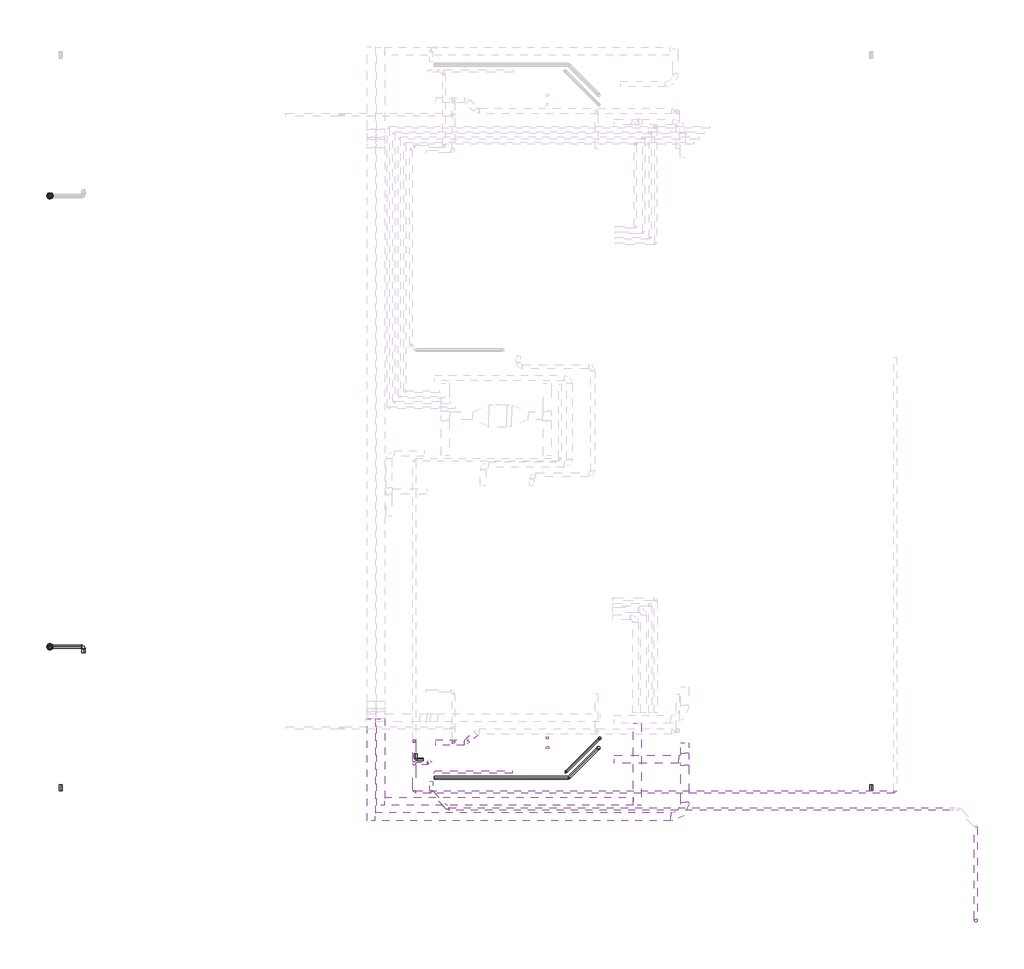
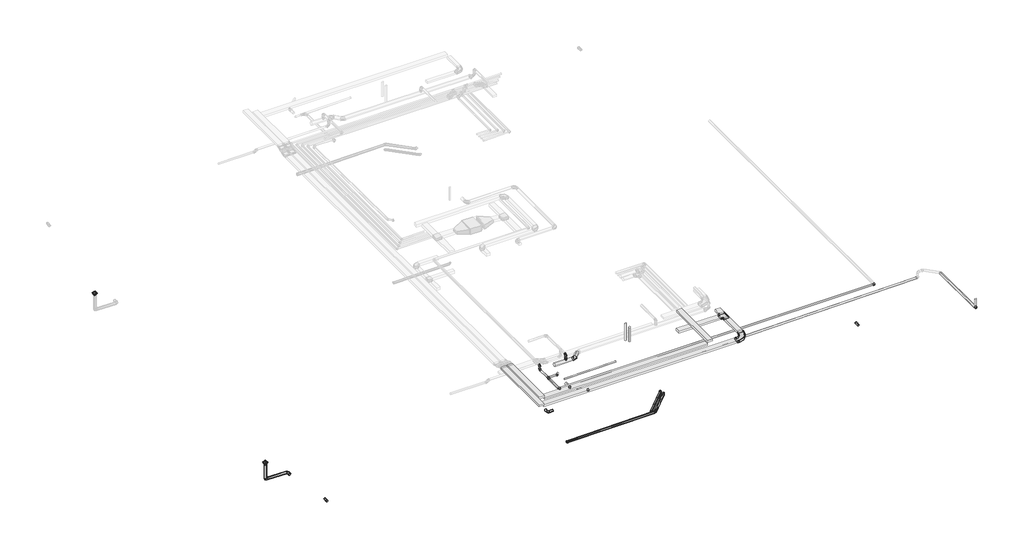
# One storey, part 1 of 5: 24 pipe segments, 17 pipe fittings, 8 cable carrier segments, 3 duct fittings, 3 duct segments, 2 cable carrier fittings, 2 flow terminals.
"""IFC4 building model written with IfcOpenShell, lengths in millimetres."""

from ifc_helpers import new_model, si_unit, point, frame, frame_2d, origin, place, context, project, spatial, polyline, circle_curve, trimmed, segment, composite_curve, outline, extrude, transform, mapped, element, save
from components import el_radio_300_mm_312ed4b1, m_codo_horizontal_de_canal_el_5b0e7b07, ext_2c048923, m_codo_redondo_ext_1_d_85067ab4, m_codo_redondo_ext_1_d_19f6bd6d, flow_terminal_39898e6f, flow_terminal_561f22d3, pipe_fitting_4aa6ec84, pipe_fitting_1b8f7a22, pipe_fitting_f4737d89, pipe_fitting_0b7fd5a4, pipe_fitting_aab77541, pipe_fitting_688cd524, pipe_fitting_d4e63a53, pipe_fitting_87aeffad, pipe_fitting_4a6b8cfe, pipe_fitting_2d09eb79

model = new_model("IFC4")

# Units and contexts
model_context = context("Model", 3, world=origin())
ifc_project = project(units=[si_unit("LENGTHUNIT", "METRE", prefix="MILLI")], contexts=[model_context])

# Site, building, storey
site = spatial("IfcSite", under=ifc_project)
building = spatial("IfcBuilding", under=site)
storey = spatial("IfcBuildingStorey", under=building, Name="Nivell 03 P03_PP", Elevation=18660.0)

# Cable carrier fittings
placement = place(None, origin())
el_radio_300_mm_shape = el_radio_300_mm_312ed4b1(model_context)
element("IfcCableCarrierFitting", 1, ObjectType="M_Te horizontal de canal : EL_Radio 300 mm", at=placement, inside=storey, context=model_context, shape_type="MappedRepresentation", body=[
    mapped(el_radio_300_mm_shape, transform((16614.6624278, -16993.7433657, 21824.0212739), x_axis=(0.0, -1.0, 0.0), y_axis=(1.0, 0.0, 0.0), z_axis=(0.0, 0.0, 1.0))),
])
m_codo_horizontal_de_canal_el_shape = m_codo_horizontal_de_canal_el_5b0e7b07(model_context)
element("IfcCableCarrierFitting", 2, ObjectType="M_Codo horizontal de canal : EL", at=placement, inside=storey, context=model_context, shape_type="MappedRepresentation", body=[
    mapped(m_codo_horizontal_de_canal_el_shape, transform((16614.6624278, -19116.2171768, 21824.0212739), x_axis=(1.0, 0.0, 0.0), y_axis=(0.0, 1.0, 0.0), z_axis=(0.0, 0.0, 1.0))),
])

# Cable carrier segments
element("IfcCableCarrierSegment", 3, ObjectType="EL", at=placement, inside=storey, context=model_context, shape_type="SweptSolid", body=[
    extrude(outline(polyline([(16464.6624278, -17219.7433657), (16764.6624278, -17219.7433657), (16764.6624278, -18591.2171768), (16464.6624278, -18591.2171768), (16464.6624278, -17219.7433657)])), frame((0.0, 0.0, 21774.0212739), z_axis=(0.0, 0.0, 1.0), x_axis=(1.0, 0.0, 0.0)), (0.0, 0.0, 1.0), 100.0),
])
element("IfcCableCarrierSegment", 4, ObjectType="EL", at=placement, inside=storey, context=model_context, shape_type="SweptSolid", body=[
    extrude(outline(polyline([(16089.6624278, -18966.2171768), (16089.6624278, -19266.2171768), (5158.2381883, -19266.2171768), (5158.2381883, -18966.2171768), (16089.6624278, -18966.2171768)])), frame((0.0, 0.0, 21774.0212739), z_axis=(0.0, 0.0, 1.0), x_axis=(1.0, 0.0, 0.0)), (0.0, 0.0, 1.0), 100.0),
])
element("IfcCableCarrierSegment", 5, ObjectType="EL", at=placement, inside=storey, context=model_context, shape_type="SweptSolid", body=[
    extrude(outline(polyline([(16464.6624278, -16393.7433657), (16764.6624278, -16393.7433657), (16764.6624278, -16767.7433657), (16464.6624278, -16767.7433657), (16464.6624278, -16393.7433657)])), frame((0.0, 0.0, 21774.0212739), z_axis=(0.0, 0.0, 1.0), x_axis=(1.0, 0.0, 0.0)), (0.0, 0.0, 1.0), 100.0),
])
element("IfcCableCarrierSegment", 6, ObjectType="EL", at=placement, inside=storey, context=model_context, shape_type="SweptSolid", body=[
    extrude(outline(polyline([(16388.6624278, -16843.7433657), (16388.6624278, -17143.7433657), (14011.0671065, -17143.7433657), (14011.0671065, -16843.7433657), (16388.6624278, -16843.7433657)])), frame((0.0, 0.0, 21774.0212739), z_axis=(0.0, 0.0, 1.0), x_axis=(1.0, 0.0, 0.0)), (0.0, 0.0, 1.0), 100.0),
])
element("IfcCableCarrierSegment", 7, ObjectType="EL", at=placement, inside=storey, context=model_context, shape_type="SweptSolid", body=[
    extrude(outline(polyline([(14707.0671065, -15671.1304394), (15007.0671065, -15671.1304394), (15007.0671065, -18700.3999814), (14707.0671065, -18700.3999814), (14707.0671065, -15671.1304394)])), frame((0.0, 0.0, 21910.0), z_axis=(0.0, 0.0, 1.0), x_axis=(1.0, 0.0, 0.0)), (0.0, 0.0, 1.0), 100.0),
])
element("IfcCableCarrierSegment", 8, ObjectType="EL", at=placement, inside=storey, context=model_context, shape_type="SweptSolid", body=[
    extrude(outline(polyline([(14707.0671065, -18400.3999814), (14707.0671065, -18700.3999814), (5507.0671065, -18700.3999814), (5507.0671065, -18400.3999814), (14707.0671065, -18400.3999814)])), frame((0.0, 0.0, 21741.5185208), z_axis=(0.0, 0.0, 1.0), x_axis=(1.0, 0.0, 0.0)), (0.0, 0.0, 1.0), 100.0),
])
element("IfcCableCarrierSegment", 9, ObjectType="EL", at=placement, inside=storey, context=model_context, shape_type="SweptSolid", body=[
    extrude(outline(polyline([(4858.2381883, -15500.01931), (5158.2381883, -15500.01931), (5158.2381883, -19266.2171768), (4858.2381883, -19266.2171768), (4858.2381883, -15500.01931)])), frame((0.0, 0.0, 21860.0), z_axis=(0.0, 0.0, 1.0), x_axis=(1.0, 0.0, 0.0)), (0.0, 0.0, 1.0), 100.0),
])
element("IfcCableCarrierSegment", 10, ObjectType="EL", at=placement, inside=storey, context=model_context, shape_type="SweptSolid", body=[
    extrude(outline(polyline([(5207.0671065, -15500.01931), (5507.0671065, -15500.01931), (5507.0671065, -18700.3999814), (5207.0671065, -18700.3999814), (5207.0671065, -15500.01931)])), frame((0.0, 0.0, 21860.0), z_axis=(0.0, 0.0, 1.0), x_axis=(1.0, 0.0, 0.0)), (0.0, 0.0, 1.0), 100.0),
])

# Duct fittings
ext_shape = ext_2c048923(model_context)
element("IfcDuctFitting", 11, ObjectType="M_Toma de derivación redonda : EXT", at=placement, inside=storey, context=model_context, shape_type="MappedRepresentation", body=[
    mapped(ext_shape, transform((8050.5896993, -16372.9719502, 21840.0), x_axis=(0.0, 0.0, 1.0), y_axis=(1.0, 0.0, 0.0), z_axis=(0.0, 1.0, 0.0))),
])
m_codo_redondo_ext_1_d_shape = m_codo_redondo_ext_1_d_85067ab4(model_context)
element("IfcDuctFitting", 12, ObjectType="M_Codo redondo : EXT_1 D", at=placement, inside=storey, context=model_context, shape_type="MappedRepresentation", body=[
    mapped(m_codo_redondo_ext_1_d_shape, transform((8050.5896993, -16372.9719502, 22110.0), x_axis=(0.0, -1.0, 0.0), y_axis=(0.0, 0.0, -1.0), z_axis=(1.0, 0.0, 0.0))),
])
m_codo_redondo_ext_1_d_2_shape = m_codo_redondo_ext_1_d_19f6bd6d(model_context)
element("IfcDuctFitting", 13, ObjectType="M_Codo redondo : EXT_1 D", at=placement, inside=storey, context=model_context, shape_type="MappedRepresentation", body=[
    mapped(m_codo_redondo_ext_1_d_2_shape, transform((8530.5878282, -16372.9738213, 21740.0), x_axis=(-0.7071067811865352, -0.7071067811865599, 0.0), y_axis=(0.7071067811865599, -0.7071067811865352, 0.0), z_axis=(0.0, 0.0, 1.0))),
])

# Duct segments
element("IfcDuctSegment", 14, ObjectType="EXT_Acer Galvanitzat - Rígid", at=placement, inside=storey, context=model_context, shape_type="SweptSolid", body=[
    extrude(outline(composite_curve([segment(trimmed(circle_curve(frame_2d((8050.5896993, -16372.9719502)), 50.0), [point((8000.5896993, -16372.9719502))], [point((8050.5896993, -16322.9719502))], False, "CARTESIAN"), True, "CONTINUOUS"), segment(trimmed(circle_curve(frame_2d((8050.5896993, -16372.9719502)), 50.0), [point((8050.5896993, -16322.9719502))], [point((8100.5896993, -16372.9719502))], False, "CARTESIAN"), True, "CONTINUOUS"), segment(trimmed(circle_curve(frame_2d((8050.5896993, -16372.9719502)), 50.0), [point((8100.5896993, -16372.9719502))], [point((8050.5896993, -16422.9719502))], False, "CARTESIAN"), True, "CONTINUOUS"), segment(trimmed(circle_curve(frame_2d((8050.5896993, -16372.9719502)), 50.0), [point((8050.5896993, -16422.9719502))], [point((8000.5896993, -16372.9719502))], False, "CARTESIAN"), True, "CONTINUOUS")], self_intersect=False)), frame((0.0, 0.0, 21941.6), z_axis=(0.0, 0.0, 1.0), x_axis=(1.0, 0.0, 0.0)), (0.0, 0.0, 1.0), 68.4),
])
element("IfcDuctSegment", 15, ObjectType="EXT_Acer Galvanitzat - Rígid", at=placement, inside=storey, context=model_context, shape_type="SweptSolid", body=[
    extrude(outline(composite_curve([segment(trimmed(circle_curve(frame_2d((0.0, -100.0)), 100.0), [point((-100.0, -100.0))], [point((0.0, 0.0))], False, "CARTESIAN"), True, "CONTINUOUS"), segment(trimmed(circle_curve(frame_2d((0.0, -100.0)), 100.0), [point((0.0, 0.0))], [point((100.0, -100.0))], False, "CARTESIAN"), True, "CONTINUOUS"), segment(trimmed(circle_curve(frame_2d((0.0, -100.0)), 100.0), [point((100.0, -100.0))], [point((0.0, -200.0))], False, "CARTESIAN"), True, "CONTINUOUS"), segment(trimmed(circle_curve(frame_2d((0.0, -100.0)), 100.0), [point((0.0, -200.0))], [point((-100.0, -100.0))], False, "CARTESIAN"), True, "CONTINUOUS")], self_intersect=False)), frame((8589.166472, -16314.3951775, 21640.0), z_axis=(0.7071067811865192, 0.707106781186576, 0.0), x_axis=(0.707106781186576, -0.7071067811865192, 0.0)), (0.0, 0.0, 1.0), 400.0026461),
])
element("IfcDuctSegment", 16, ObjectType="EXT_Acer Galvanitzat - Rígid", at=placement, inside=storey, context=model_context, shape_type="SweptSolid", body=[
    extrude(outline(composite_curve([segment(trimmed(circle_curve(frame_2d((-16372.9738213, 21740.0)), 100.0), [point((-16272.9738213, 21740.0))], [point((-16372.9738213, 21640.0))], False, "CARTESIAN"), True, "CONTINUOUS"), segment(trimmed(circle_curve(frame_2d((-16372.9738213, 21740.0)), 100.0), [point((-16372.9738213, 21640.0))], [point((-16472.9738213, 21740.0))], False, "CARTESIAN"), True, "CONTINUOUS"), segment(trimmed(circle_curve(frame_2d((-16372.9738213, 21740.0)), 100.0), [point((-16472.9738213, 21740.0))], [point((-16372.9738213, 21840.0))], False, "CARTESIAN"), True, "CONTINUOUS"), segment(trimmed(circle_curve(frame_2d((-16372.9738213, 21740.0)), 100.0), [point((-16372.9738213, 21840.0))], [point((-16272.9738213, 21740.0))], False, "CARTESIAN"), True, "CONTINUOUS")], self_intersect=False)), frame((7390.5878282, 0.0, 0.0), z_axis=(1.0, 0.0, 0.0), x_axis=(0.0, 1.0, 0.0)), (0.0, 0.0, 1.0), 1057.1572875),
])

# Flow terminals
flow_terminal_shape = flow_terminal_39898e6f(model_context)
element("IfcFlowTerminal", 17, ObjectType="ARC_PF_desaigua coberta : Diámetro salida 70mm", at=placement, inside=storey, context=model_context, shape_type="MappedRepresentation", body=[
    mapped(flow_terminal_shape, transform((-6884.6265174, 3853.7508926, 18658.0), x_axis=(1.0, 0.0, 0.0), y_axis=(0.0, 1.0, 0.0), z_axis=(0.0, 0.0, 1.0))),
])
flow_terminal_2_shape = flow_terminal_561f22d3(model_context)
element("IfcFlowTerminal", 18, ObjectType="ARC_PF_desaigua coberta : Diámetro salida 70mm", at=placement, inside=storey, context=model_context, shape_type="MappedRepresentation", body=[
    mapped(flow_terminal_2_shape, transform((-6884.6265174, -12834.5028727, 18658.0), x_axis=(1.0, 0.0, 0.0), y_axis=(0.0, 1.0, 0.0), z_axis=(0.0, 0.0, 1.0))),
])

# Pipe fittings
pipe_fitting_shape = pipe_fitting_4aa6ec84(model_context)
element("IfcPipeFitting", 19, ObjectType="M_Transición - Genérica : Estándar", at=placement, inside=storey, context=model_context, shape_type="MappedRepresentation", body=[
    mapped(pipe_fitting_shape, transform((-6884.6265174, -12834.5028727, 18658.0), x_axis=(0.0, 0.0, -1.0), y_axis=(1.0, 0.0, 0.0), z_axis=(0.0, -1.0, 0.0))),
])
pipe_fitting_2_shape = pipe_fitting_1b8f7a22(model_context)
element("IfcPipeFitting", 20, ObjectType="M_Codo - Genérico : Estándar", at=placement, inside=storey, context=model_context, shape_type="MappedRepresentation", body=[
    mapped(pipe_fitting_2_shape, transform((-6884.6265174, -12834.5028727, 17764.0), x_axis=(0.0, 0.0, -1.0), y_axis=(-1.0, 0.0, 0.0), z_axis=(0.0, 1.0, 0.0))),
])
pipe_fitting_3_shape = pipe_fitting_f4737d89(model_context)
element("IfcPipeFitting", 21, ObjectType="M_Codo - Genérico : Estándar", at=placement, inside=storey, context=model_context, shape_type="MappedRepresentation", body=[
    mapped(pipe_fitting_3_shape, transform((-5639.5711916, -12834.5028727, 17751.5494467), x_axis=(0.9999500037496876, 0.0, -0.009999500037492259), y_axis=(9.998500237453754e-05, 0.9999500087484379, 0.00999850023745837), z_axis=(0.00999900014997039, -0.009999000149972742, 0.9999000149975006))),
])
pipe_fitting_4_shape = pipe_fitting_0b7fd5a4(model_context)
element("IfcPipeFitting", 22, ObjectType="M_Codo - Genérico : Estándar", at=placement, inside=storey, context=model_context, shape_type="MappedRepresentation", body=[
    mapped(pipe_fitting_4_shape, transform((7870.0068596, -18840.3956727, 21576.0671248), x_axis=(0.7070714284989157, -0.7070714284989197, 0.009999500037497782), y_axis=(0.7070714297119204, 0.7071300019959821, 0.004141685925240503), z_axis=(-0.009999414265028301, 0.004141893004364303, 0.9999414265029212))),
])
element("IfcPipeFitting", 23, ObjectType="M_Codo - Genérico : Estándar", at=placement, inside=storey, context=model_context, shape_type="MappedRepresentation", body=[
    mapped(pipe_fitting_4_shape, transform((7222.8096734, -18193.1973994, 21566.9143667), x_axis=(0.0, -0.9999500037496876, 0.009999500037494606), y_axis=(0.9999914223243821, 4.141685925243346e-05, 0.004141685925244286), z_axis=(-0.004141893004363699, 0.009999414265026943, 0.9999414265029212))),
])
element("IfcPipeFitting", 24, ObjectType="M_Codo - Genérico : Estándar", at=placement, inside=storey, context=model_context, shape_type="MappedRepresentation", body=[
    mapped(pipe_fitting_4_shape, transform((12318.5757792, -17686.9795368, 17994.2175715), x_axis=(0.9999500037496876, 0.0, 0.009999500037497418), y_axis=(-4.141685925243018e-05, 0.9999914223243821, 0.004141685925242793), z_axis=(-0.009999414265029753, -0.004141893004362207, 0.9999414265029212))),
])
pipe_fitting_5_shape = pipe_fitting_aab77541(model_context)
element("IfcPipeFitting", 25, ObjectType="M_Codo - Genérico : Estándar", at=placement, inside=storey, context=model_context, shape_type="MappedRepresentation", body=[
    mapped(pipe_fitting_5_shape, transform((27389.4059114, -22976.7660651, 22160.0), x_axis=(0.0, 0.0, -1.0), y_axis=(0.0, 1.0, 0.0), z_axis=(1.0, 0.0, 0.0))),
])
element("IfcPipeFitting", 26, ObjectType="M_Codo - Genérico : Estándar", at=placement, inside=storey, context=model_context, shape_type="MappedRepresentation", body=[
    mapped(pipe_fitting_5_shape, transform((13434.5619983, -16570.9933177, 18010.0), x_axis=(0.7070714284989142, 0.7070714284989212, 0.00999950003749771), y_axis=(-0.007070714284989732, -0.007070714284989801, 0.9999500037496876), z_axis=(0.707106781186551, -0.707106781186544, 0.0))),
])
pipe_fitting_6_shape = pipe_fitting_688cd524(model_context)
element("IfcPipeFitting", 27, ObjectType="M_Codo - Genérico : Estándar", at=placement, inside=storey, context=model_context, shape_type="MappedRepresentation", body=[
    mapped(pipe_fitting_6_shape, transform((13475.0176167, -16214.1987939, 17901.1228556), x_axis=(0.7070714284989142, 0.7070714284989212, 0.00999950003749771), y_axis=(-0.007070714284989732, -0.007070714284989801, 0.9999500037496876), z_axis=(0.707106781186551, -0.707106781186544, 0.0))),
])
pipe_fitting_7_shape = pipe_fitting_d4e63a53(model_context)
element("IfcPipeFitting", 28, ObjectType="M_Codo - Genérico : Estándar", at=placement, inside=storey, context=model_context, shape_type="MappedRepresentation", body=[
    mapped(pipe_fitting_7_shape, transform((12218.1428427, -17471.0727446, 17883.3479679), x_axis=(0.9999500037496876, 0.0, 0.009999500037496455), y_axis=(-4.141528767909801e-05, 0.9999914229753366, 0.0041415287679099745), z_axis=(-0.00999941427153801, -0.004141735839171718, 0.9999414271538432))),
])
pipe_fitting_8_shape = pipe_fitting_87aeffad(model_context)
element("IfcPipeFitting", 29, ObjectType="M_Codo - Genérico : Estándar", at=placement, inside=storey, context=model_context, shape_type="MappedRepresentation", body=[
    mapped(pipe_fitting_8_shape, transform((6656.4795907, -17006.4845942, 19560.0), x_axis=(0.0, -1.0, 0.0), y_axis=(1.0, 0.0, 0.0), z_axis=(0.0, 0.0, 1.0))),
])
element("IfcPipeFitting", 30, ObjectType="M_Codo - Genérico : Estándar", at=placement, inside=storey, context=model_context, shape_type="MappedRepresentation", body=[
    mapped(pipe_fitting_8_shape, transform((6603.8941113, -18211.6106458, 21709.2), x_axis=(0.0, -1.0, 0.0), y_axis=(1.0, 0.0, 0.0), z_axis=(0.0, 0.0, 1.0))),
])
element("IfcPipeFitting", 31, ObjectType="M_Codo - Genérico : Estándar", at=placement, inside=storey, context=model_context, shape_type="MappedRepresentation", body=[
    mapped(pipe_fitting_8_shape, transform((24403.8941113, -18211.6106458, 21709.2), x_axis=(1.0, 0.0, 0.0), y_axis=(0.0, 1.0, 0.0), z_axis=(0.0, 0.0, 1.0))),
])
element("IfcPipeFitting", 32, ObjectType="M_Codo - Genérico : Estándar", at=placement, inside=storey, context=model_context, shape_type="MappedRepresentation", body=[
    mapped(pipe_fitting_8_shape, transform((6603.8941113, -16317.1543958, 21709.2), x_axis=(0.0, 1.0, 0.0), y_axis=(0.0, 0.0, 1.0), z_axis=(1.0, 0.0, 0.0))),
])
element("IfcPipeFitting", 33, ObjectType="M_Codo - Genérico : Estándar", at=placement, inside=storey, context=model_context, shape_type="MappedRepresentation", body=[
    mapped(pipe_fitting_8_shape, transform((6603.8941113, -16317.1543958, 21960.8), x_axis=(0.0, -1.0, 0.0), y_axis=(0.0, 0.0, -1.0), z_axis=(1.0, 0.0, 0.0))),
])
pipe_fitting_9_shape = pipe_fitting_4a6b8cfe(model_context)
element("IfcPipeFitting", 34, ObjectType="M_Codo - Genérico : Estándar", at=placement, inside=storey, context=model_context, shape_type="MappedRepresentation", body=[
    mapped(pipe_fitting_9_shape, transform((7103.8941113, -17152.8731458, 21709.2), x_axis=(1.0, 0.0, 0.0), y_axis=(0.0, 1.0, 0.0), z_axis=(0.0, 0.0, 1.0))),
])
pipe_fitting_10_shape = pipe_fitting_2d09eb79(model_context)
element("IfcPipeFitting", 35, ObjectType="M_Te - Genérica : Estándar", at=placement, inside=storey, context=model_context, shape_type="MappedRepresentation", body=[
    mapped(pipe_fitting_10_shape, transform((6603.8941113, -17152.8731458, 21709.2), x_axis=(0.0, -1.0, 0.0), y_axis=(-1.0, 0.0, 0.0), z_axis=(0.0, 0.0, -1.0))),
])

# Pipe segments
element("IfcPipeSegment", 36, ObjectType="PVC_Baixant", at=placement, inside=storey, context=model_context, shape_type="SweptSolid", body=[
    extrude(outline(composite_curve([segment(trimmed(circle_curve(frame_2d((0.0, -62.5)), 62.5), [point((0.0, -125.0))], [point((-62.5, -62.5))], False, "CARTESIAN"), True, "CONTINUOUS"), segment(trimmed(circle_curve(frame_2d((0.0, -62.5)), 62.5), [point((-62.5, -62.5))], [point((0.0, 0.0))], False, "CARTESIAN"), True, "CONTINUOUS"), segment(trimmed(circle_curve(frame_2d((0.0, -62.5)), 62.5), [point((0.0, 0.0))], [point((62.5, -62.5))], False, "CARTESIAN"), True, "CONTINUOUS"), segment(trimmed(circle_curve(frame_2d((0.0, -62.5)), 62.5), [point((62.5, -62.5))], [point((0.0, -125.0))], False, "CARTESIAN"), True, "CONTINUOUS")], self_intersect=False)), frame((-5710.9979776, -12772.0028727, 17752.2637146), z_axis=(-0.9999500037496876, 0.0, 0.00999950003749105), x_axis=(0.00999950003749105, 0.0, 0.9999500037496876)), (0.0, 0.0, 1.0), 1102.9605229),
])
element("IfcPipeSegment", 37, ObjectType="PVC_Baixant", at=placement, inside=storey, context=model_context, shape_type="SweptSolid", body=[
    extrude(outline(composite_curve([segment(trimmed(circle_curve(frame_2d((-6884.6265174, -12834.5028727)), 62.5), [point((-6822.1265174, -12834.5028727))], [point((-6884.6265174, -12897.0028727))], False, "CARTESIAN"), True, "CONTINUOUS"), segment(trimmed(circle_curve(frame_2d((-6884.6265174, -12834.5028727)), 62.5), [point((-6884.6265174, -12897.0028727))], [point((-6947.1265174, -12834.5028727))], False, "CARTESIAN"), True, "CONTINUOUS"), segment(trimmed(circle_curve(frame_2d((-6884.6265174, -12834.5028727)), 62.5), [point((-6947.1265174, -12834.5028727))], [point((-6884.6265174, -12772.0028727))], False, "CARTESIAN"), True, "CONTINUOUS"), segment(trimmed(circle_curve(frame_2d((-6884.6265174, -12834.5028727)), 62.5), [point((-6884.6265174, -12772.0028727))], [point((-6822.1265174, -12834.5028727))], False, "CARTESIAN"), True, "CONTINUOUS")], self_intersect=False)), frame((0.0, 0.0, 17834.7266968), z_axis=(0.0, 0.0, 1.0), x_axis=(1.0, 0.0, 0.0)), (0.0, 0.0, 1.0), 790.7295532),
])
element("IfcPipeSegment", 38, ObjectType="PVC_Baixant", at=placement, inside=storey, context=model_context, shape_type="SweptSolid", body=[
    extrude(outline(composite_curve([segment(trimmed(circle_curve(frame_2d((0.0, -62.5)), 62.5), [point((-62.5, -62.5))], [point((0.0, 0.0))], False, "CARTESIAN"), True, "CONTINUOUS"), segment(trimmed(circle_curve(frame_2d((0.0, -62.5)), 62.5), [point((0.0, 0.0))], [point((62.5, -62.5))], False, "CARTESIAN"), True, "CONTINUOUS"), segment(trimmed(circle_curve(frame_2d((0.0, -62.5)), 62.5), [point((62.5, -62.5))], [point((0.0, -125.0))], False, "CARTESIAN"), True, "CONTINUOUS"), segment(trimmed(circle_curve(frame_2d((0.0, -62.5)), 62.5), [point((0.0, -125.0))], [point((-62.5, -62.5))], False, "CARTESIAN"), True, "CONTINUOUS")], self_intersect=False)), frame((-5639.5711916, -13049.8787037, 17686.8925635), z_axis=(0.0, 0.9999500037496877, 0.009999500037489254), x_axis=(1.0, 0.0, 0.0)), (0.0, 0.0, 1.0), 144.5812423),
])
element("IfcPipeSegment", 39, ObjectType="PVC_Baixant", at=placement, inside=storey, context=model_context, shape_type="SweptSolid", body=[
    extrude(outline(composite_curve([segment(trimmed(circle_curve(frame_2d((11534.5619983, -16570.9933177)), 55.0), [point((11479.5619983, -16570.9933177))], [point((11534.5619983, -16515.9933177))], False, "CARTESIAN"), True, "CONTINUOUS"), segment(trimmed(circle_curve(frame_2d((11534.5619983, -16570.9933177)), 55.0), [point((11534.5619983, -16515.9933177))], [point((11589.5619983, -16570.9933177))], False, "CARTESIAN"), True, "CONTINUOUS"), segment(trimmed(circle_curve(frame_2d((11534.5619983, -16570.9933177)), 55.0), [point((11589.5619983, -16570.9933177))], [point((11534.5619983, -16625.9933177))], False, "CARTESIAN"), True, "CONTINUOUS"), segment(trimmed(circle_curve(frame_2d((11534.5619983, -16570.9933177)), 55.0), [point((11534.5619983, -16625.9933177))], [point((11479.5619983, -16570.9933177))], False, "CARTESIAN"), True, "CONTINUOUS")], self_intersect=False)), frame((0.0, 0.0, 21822.3112718), z_axis=(0.0, 0.0, 1.0), x_axis=(1.0, 0.0, 0.0)), (0.0, 0.0, 1.0), 837.6887282),
])
element("IfcPipeSegment", 40, ObjectType="PVC_Baixant", at=placement, inside=storey, context=model_context, shape_type="SweptSolid", body=[
    extrude(outline(composite_curve([segment(trimmed(circle_curve(frame_2d((0.0, 45.0)), 45.0), [point((-45.0, 45.0))], [point((0.0, 90.0))], False, "CARTESIAN"), True, "CONTINUOUS"), segment(trimmed(circle_curve(frame_2d((0.0, 45.0)), 45.0), [point((0.0, 90.0))], [point((45.0, 45.0))], False, "CARTESIAN"), True, "CONTINUOUS"), segment(trimmed(circle_curve(frame_2d((0.0, 45.0)), 45.0), [point((45.0, 45.0))], [point((0.0, 0.0))], False, "CARTESIAN"), True, "CONTINUOUS"), segment(trimmed(circle_curve(frame_2d((0.0, 45.0)), 45.0), [point((0.0, 0.0))], [point((-45.0, 45.0))], False, "CARTESIAN"), True, "CONTINUOUS")], self_intersect=False)), frame((11520.8342792, -16253.2069022, 21670.9866789), z_axis=(2.535683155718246e-05, -1.9776222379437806e-06, 0.9999999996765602), x_axis=(0.9999999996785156, 5.01430008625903e-11, -2.535683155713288e-05)), (0.0, 0.0, 1.0), 989.013222),
])
element("IfcPipeSegment", 41, ObjectType="PVC_Baixant", at=placement, inside=storey, context=model_context, shape_type="SweptSolid", body=[
    extrude(outline(composite_curve([segment(trimmed(circle_curve(frame_2d((0.0, -45.0)), 45.0), [point((0.0, 0.0))], [point((44.9999999, -45.0))], False, "CARTESIAN"), True, "CONTINUOUS"), segment(trimmed(circle_curve(frame_2d((0.0, -45.0)), 45.0), [point((44.9999999, -45.0))], [point((0.0, -90.0))], False, "CARTESIAN"), True, "CONTINUOUS"), segment(trimmed(circle_curve(frame_2d((0.0, -45.0)), 45.0), [point((0.0, -90.0))], [point((-45.0, -45.0))], False, "CARTESIAN"), True, "CONTINUOUS"), segment(trimmed(circle_curve(frame_2d((0.0, -45.0)), 45.0), [point((-45.0, -45.0))], [point((0.0, 0.0))], False, "CARTESIAN"), True, "CONTINUOUS")], self_intersect=False)), frame((7341.7462723, -17425.4705374, 21572.1011787), z_axis=(0.9999500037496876, 0.0, 0.009999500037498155), x_axis=(0.009999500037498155, 0.0, -0.9999500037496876)), (0.0, 0.0, 1.0), 2895.2718674),
])
element("IfcPipeSegment", 42, ObjectType="PVC_Baixant", at=placement, inside=storey, context=model_context, shape_type="SweptSolid", body=[
    extrude(outline(composite_curve([segment(trimmed(circle_curve(frame_2d((27389.4059114, -22976.7660651)), 55.0), [point((27334.4059114, -22976.7660651))], [point((27389.4059114, -22921.7660651))], False, "CARTESIAN"), True, "CONTINUOUS"), segment(trimmed(circle_curve(frame_2d((27389.4059114, -22976.7660651)), 55.0), [point((27389.4059114, -22921.7660651))], [point((27444.4059114, -22976.7660651))], False, "CARTESIAN"), True, "CONTINUOUS"), segment(trimmed(circle_curve(frame_2d((27389.4059114, -22976.7660651)), 55.0), [point((27444.4059114, -22976.7660651))], [point((27389.4059114, -23031.7660651))], False, "CARTESIAN"), True, "CONTINUOUS"), segment(trimmed(circle_curve(frame_2d((27389.4059114, -22976.7660651)), 55.0), [point((27389.4059114, -23031.7660651))], [point((27334.4059114, -22976.7660651))], False, "CARTESIAN"), True, "CONTINUOUS")], self_intersect=False)), frame((0.0, 0.0, 22222.3112718), z_axis=(0.0, 0.0, 1.0), x_axis=(1.0, 0.0, 0.0)), (0.0, 0.0, 1.0), 437.6887282),
])
element("IfcPipeSegment", 43, ObjectType="PVC_Baixant", at=placement, inside=storey, context=model_context, shape_type="SweptSolid", body=[
    extrude(outline(composite_curve([segment(trimmed(circle_curve(frame_2d((0.0, -55.0)), 55.0), [point((55.0, -55.0))], [point((0.0, -110.0))], False, "CARTESIAN"), True, "CONTINUOUS"), segment(trimmed(circle_curve(frame_2d((0.0, -55.0)), 55.0), [point((0.0, -110.0))], [point((-55.0, -55.0))], False, "CARTESIAN"), True, "CONTINUOUS"), segment(trimmed(circle_curve(frame_2d((0.0, -55.0)), 55.0), [point((-55.0, -55.0))], [point((0.0, 0.0))], False, "CARTESIAN"), True, "CONTINUOUS"), segment(trimmed(circle_curve(frame_2d((0.0, -55.0)), 55.0), [point((0.0, 0.0))], [point((55.0, -55.0))], False, "CARTESIAN"), True, "CONTINUOUS")], self_intersect=False)), frame((27389.4059114, -19499.9749558, 22180.2348388), z_axis=(0.0, -0.9999500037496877, 0.009999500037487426), x_axis=(1.0, 0.0, 0.0)), (0.0, 0.0, 1.0), 3414.1036727),
])
element("IfcPipeSegment", 44, ObjectType="PVC_Baixant", at=placement, inside=storey, context=model_context, shape_type="SweptSolid", body=[
    extrude(outline(composite_curve([segment(trimmed(circle_curve(frame_2d((0.0, -55.0)), 55.0), [point((0.0, 0.0))], [point((55.0, -55.0))], False, "CARTESIAN"), True, "CONTINUOUS"), segment(trimmed(circle_curve(frame_2d((0.0, -55.0)), 55.0), [point((55.0, -55.0))], [point((0.0, -110.0))], False, "CARTESIAN"), True, "CONTINUOUS"), segment(trimmed(circle_curve(frame_2d((0.0, -55.0)), 55.0), [point((0.0, -110.0))], [point((-55.0, -55.0))], False, "CARTESIAN"), True, "CONTINUOUS"), segment(trimmed(circle_curve(frame_2d((0.0, -55.0)), 55.0), [point((-55.0, -55.0))], [point((0.0, 0.0))], False, "CARTESIAN"), True, "CONTINUOUS")], self_intersect=False)), frame((7896.0735954, -18785.3956727, 21576.3277921), z_axis=(0.9999500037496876, 0.0, 0.009999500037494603), x_axis=(0.009999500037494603, 0.0, -0.9999500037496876)), (0.0, 0.0, 1.0), 18530.0950724),
])
element("IfcPipeSegment", 45, ObjectType="PVC_Baixant", at=placement, inside=storey, context=model_context, shape_type="SweptSolid", body=[
    extrude(outline(composite_curve([segment(trimmed(circle_curve(frame_2d((0.0, -55.0)), 55.0), [point((54.9972505, -54.4500559))], [point((0.549944, -109.9972506))], False, "CARTESIAN"), True, "CONTINUOUS"), segment(trimmed(circle_curve(frame_2d((0.0, -55.0)), 55.0), [point((0.549944, -109.9972506))], [point((-54.9972505, -55.549944))], False, "CARTESIAN"), True, "CONTINUOUS"), segment(trimmed(circle_curve(frame_2d((0.0, -55.0)), 55.0), [point((-54.9972505, -55.549944))], [point((-0.5499441, -0.0027495))], False, "CARTESIAN"), True, "CONTINUOUS"), segment(trimmed(circle_curve(frame_2d((0.0, -55.0)), 55.0), [point((-0.5499441, -0.0027495))], [point((54.9972505, -54.4500559))], False, "CARTESIAN"), True, "CONTINUOUS")], self_intersect=False)), frame((7241.2416391, -18210.851626, 21622.1695349), z_axis=(0.7070707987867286, -0.707072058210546, 0.009999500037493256), x_axis=(0.7071427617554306, 0.707000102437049, -0.009998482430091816)), (0.0, 0.0, 1.0), 863.1854914),
])
element("IfcPipeSegment", 46, ObjectType="PVC_Baixant", at=placement, inside=storey, context=model_context, shape_type="SweptSolid", body=[
    extrude(outline(composite_curve([segment(trimmed(circle_curve(frame_2d((0.0, -55.0000001)), 55.0), [point((55.0, -55.0000001))], [point((0.0, -110.0000001))], False, "CARTESIAN"), True, "CONTINUOUS"), segment(trimmed(circle_curve(frame_2d((0.0, -55.0000001)), 55.0), [point((0.0, -110.0000001))], [point((-55.0, -55.0000001))], False, "CARTESIAN"), True, "CONTINUOUS"), segment(trimmed(circle_curve(frame_2d((0.0, -55.0000001)), 55.0), [point((-55.0, -55.0000001))], [point((0.0, 0.0))], False, "CARTESIAN"), True, "CONTINUOUS"), segment(trimmed(circle_curve(frame_2d((0.0, -55.0000001)), 55.0), [point((0.0, 0.0))], [point((55.0, -55.0000001))], False, "CARTESIAN"), True, "CONTINUOUS")], self_intersect=False)), frame((7222.8096734, -17804.808102, 21618.0332237), z_axis=(0.0, -0.999950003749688, 0.009999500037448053), x_axis=(1.0, 0.0, 0.0)), (0.0, 0.0, 1.0), 361.7906773),
])
element("IfcPipeSegment", 47, ObjectType="PVC_Baixant", at=placement, inside=storey, context=model_context, shape_type="SweptSolid", body=[
    extrude(outline(composite_curve([segment(trimmed(circle_curve(frame_2d((0.0, -55.0)), 55.0), [point((-54.9972505, -54.450055))], [point((0.549945, -0.0027495))], False, "CARTESIAN"), True, "CONTINUOUS"), segment(trimmed(circle_curve(frame_2d((0.0, -55.0)), 55.0), [point((0.549945, -0.0027495))], [point((54.9972505, -55.549945))], False, "CARTESIAN"), True, "CONTINUOUS"), segment(trimmed(circle_curve(frame_2d((0.0, -55.0)), 55.0), [point((54.9972505, -55.549945))], [point((-0.549945, -109.9972505))], False, "CARTESIAN"), True, "CONTINUOUS"), segment(trimmed(circle_curve(frame_2d((0.0, -55.0)), 55.0), [point((-0.549945, -109.9972505))], [point((-54.9972505, -54.450055))], False, "CARTESIAN"), True, "CONTINUOUS")], self_intersect=False)), frame((12337.0077448, -17667.7698315, 17939.4837381), z_axis=(0.7070714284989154, 0.7070714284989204, 0.009999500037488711), x_axis=(0.7071421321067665, -0.7070007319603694, -0.009998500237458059)), (0.0, 0.0, 1.0), 1489.9424458),
])
element("IfcPipeSegment", 48, ObjectType="PVC_Baixant", at=placement, inside=storey, context=model_context, shape_type="SweptSolid", body=[
    extrude(outline(composite_curve([segment(trimmed(circle_curve(frame_2d((0.0, -55.0)), 55.0), [point((0.0, 0.0))], [point((55.0, -55.0))], False, "CARTESIAN"), True, "CONTINUOUS"), segment(trimmed(circle_curve(frame_2d((0.0, -55.0)), 55.0), [point((55.0, -55.0))], [point((0.0, -110.0))], False, "CARTESIAN"), True, "CONTINUOUS"), segment(trimmed(circle_curve(frame_2d((0.0, -55.0)), 55.0), [point((0.0, -110.0))], [point((-55.0, -55.0))], False, "CARTESIAN"), True, "CONTINUOUS"), segment(trimmed(circle_curve(frame_2d((0.0, -55.0)), 55.0), [point((-55.0, -55.0))], [point((0.0, 0.0))], False, "CARTESIAN"), True, "CONTINUOUS")], self_intersect=False)), frame((7340.5229136, -17631.9795368, 17944.4370429), z_axis=(0.9999500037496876, 0.0, 0.009999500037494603), x_axis=(0.009999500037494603, 0.0, -0.9999500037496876)), (0.0, 0.0, 1.0), 4952.2337229),
])
element("IfcPipeSegment", 49, ObjectType="PVC_Baixant", at=placement, inside=storey, context=model_context, shape_type="SweptSolid", body=[
    extrude(outline(composite_curve([segment(trimmed(circle_curve(frame_2d((0.0, -45.0)), 45.0), [point((-44.9977503, -44.550045))], [point((0.4499551, -0.0022497))], False, "CARTESIAN"), True, "CONTINUOUS"), segment(trimmed(circle_curve(frame_2d((0.0, -45.0)), 45.0), [point((0.4499551, -0.0022497))], [point((44.9977505, -45.449955))], False, "CARTESIAN"), True, "CONTINUOUS"), segment(trimmed(circle_curve(frame_2d((0.0, -45.0)), 45.0), [point((44.9977505, -45.449955))], [point((-0.4499549, -89.9977505))], False, "CARTESIAN"), True, "CONTINUOUS"), segment(trimmed(circle_curve(frame_2d((0.0, -45.0)), 45.0), [point((-0.4499549, -89.9977505))], [point((-44.9977503, -44.550045))], False, "CARTESIAN"), True, "CONTINUOUS")], self_intersect=False)), frame((12233.4849498, -17455.0951282, 17838.5694315), z_axis=(0.7070714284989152, 0.7070714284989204, 0.009999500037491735), x_axis=(0.7071421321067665, -0.7070007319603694, -0.009998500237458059)), (0.0, 0.0, 1.0), 1704.0138787),
])
element("IfcPipeSegment", 50, ObjectType="AN_CI", at=placement, inside=storey, context=model_context, shape_type="SweptSolid", body=[
    extrude(outline(composite_curve([segment(trimmed(circle_curve(frame_2d((-17006.4845942, 19560.0)), 50.8), [point((-16955.6845942, 19560.0))], [point((-17006.4845942, 19509.2))], False, "CARTESIAN"), True, "CONTINUOUS"), segment(trimmed(circle_curve(frame_2d((-17006.4845942, 19560.0)), 50.8), [point((-17006.4845942, 19509.2))], [point((-17057.2845942, 19560.0))], False, "CARTESIAN"), True, "CONTINUOUS"), segment(trimmed(circle_curve(frame_2d((-17006.4845942, 19560.0)), 50.8), [point((-17057.2845942, 19560.0))], [point((-17006.4845942, 19610.8))], False, "CARTESIAN"), True, "CONTINUOUS"), segment(trimmed(circle_curve(frame_2d((-17006.4845942, 19560.0)), 50.8), [point((-17006.4845942, 19610.8))], [point((-16955.6845942, 19560.0))], False, "CARTESIAN"), True, "CONTINUOUS")], self_intersect=False)), frame((6708.8670907, 0.0, 0.0), z_axis=(1.0, 0.0, 0.0), x_axis=(0.0, 1.0, 0.0)), (0.0, 0.0, 1.0), 227.6125),
])
element("IfcPipeSegment", 51, ObjectType="AN_CI", at=placement, inside=storey, context=model_context, shape_type="SweptSolid", body=[
    extrude(outline(composite_curve([segment(trimmed(circle_curve(frame_2d((19560.0, 6656.4795907)), 50.8), [point((19560.0, 6707.2795907))], [point((19610.8, 6656.4795907))], False, "CARTESIAN"), True, "CONTINUOUS"), segment(trimmed(circle_curve(frame_2d((19560.0, 6656.4795907)), 50.8), [point((19610.8, 6656.4795907))], [point((19560.0, 6605.6795907))], False, "CARTESIAN"), True, "CONTINUOUS"), segment(trimmed(circle_curve(frame_2d((19560.0, 6656.4795907)), 50.8), [point((19560.0, 6605.6795907))], [point((19509.2, 6656.4795907))], False, "CARTESIAN"), True, "CONTINUOUS"), segment(trimmed(circle_curve(frame_2d((19560.0, 6656.4795907)), 50.8), [point((19509.2, 6656.4795907))], [point((19560.0, 6707.2795907))], False, "CARTESIAN"), True, "CONTINUOUS")], self_intersect=False)), frame((0.0, -16954.0970942, 0.0), z_axis=(0.0, 1.0, 0.0), x_axis=(0.0, 0.0, 1.0)), (0.0, 0.0, 1.0), 167.6125),
])
element("IfcPipeSegment", 52, ObjectType="AN_CI", at=placement, inside=storey, context=model_context, shape_type="SweptSolid", body=[
    extrude(outline(composite_curve([segment(trimmed(circle_curve(frame_2d((0.0, -50.8)), 50.8), [point((-50.8, -50.8))], [point((0.0, 0.0))], False, "CARTESIAN"), True, "CONTINUOUS"), segment(trimmed(circle_curve(frame_2d((0.0, -50.8)), 50.8), [point((0.0, 0.0))], [point((50.8, -50.8))], False, "CARTESIAN"), True, "CONTINUOUS"), segment(trimmed(circle_curve(frame_2d((0.0, -50.8)), 50.8), [point((50.8, -50.8))], [point((0.0, -101.6))], False, "CARTESIAN"), True, "CONTINUOUS"), segment(trimmed(circle_curve(frame_2d((0.0, -50.8)), 50.8), [point((0.0, -101.6))], [point((-50.8, -50.8))], False, "CARTESIAN"), True, "CONTINUOUS")], self_intersect=False)), frame((7119.2380548, -17137.5292023, 21658.4), z_axis=(0.7071067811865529, 0.7071067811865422, 0.0), x_axis=(0.7071067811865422, -0.7071067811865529, 0.0)), (0.0, 0.0, 1.0), 125.912887),
])
element("IfcPipeSegment", 53, ObjectType="AN_CI", at=placement, inside=storey, context=model_context, shape_type="SweptSolid", body=[
    extrude(outline(composite_curve([segment(trimmed(circle_curve(frame_2d((-17152.8731458, 21709.2)), 50.8), [point((-17102.0731458, 21709.2))], [point((-17152.8731458, 21658.4))], False, "CARTESIAN"), True, "CONTINUOUS"), segment(trimmed(circle_curve(frame_2d((-17152.8731458, 21709.2)), 50.8), [point((-17152.8731458, 21658.4))], [point((-17203.6731458, 21709.2))], False, "CARTESIAN"), True, "CONTINUOUS"), segment(trimmed(circle_curve(frame_2d((-17152.8731458, 21709.2)), 50.8), [point((-17203.6731458, 21709.2))], [point((-17152.8731458, 21760.0))], False, "CARTESIAN"), True, "CONTINUOUS"), segment(trimmed(circle_curve(frame_2d((-17152.8731458, 21709.2)), 50.8), [point((-17152.8731458, 21760.0))], [point((-17102.0731458, 21709.2))], False, "CARTESIAN"), True, "CONTINUOUS")], self_intersect=False)), frame((6662.6316113, 0.0, 0.0), z_axis=(1.0, 0.0, 0.0), x_axis=(0.0, 1.0, 0.0)), (0.0, 0.0, 1.0), 419.562887),
])
element("IfcPipeSegment", 54, ObjectType="AN_CI", at=placement, inside=storey, context=model_context, shape_type="SweptSolid", body=[
    extrude(outline(composite_curve([segment(trimmed(circle_curve(frame_2d((0.0, -50.8)), 50.8), [point((0.0, 0.0))], [point((50.8, -50.8))], False, "CARTESIAN"), True, "CONTINUOUS"), segment(trimmed(circle_curve(frame_2d((0.0, -50.8)), 50.8), [point((50.8, -50.8))], [point((0.0, -101.5999999))], False, "CARTESIAN"), True, "CONTINUOUS"), segment(trimmed(circle_curve(frame_2d((0.0, -50.8)), 50.8), [point((0.0, -101.5999999))], [point((-50.8, -50.8))], False, "CARTESIAN"), True, "CONTINUOUS"), segment(trimmed(circle_curve(frame_2d((0.0, -50.8)), 50.8), [point((-50.8, -50.8))], [point((0.0, 0.0))], False, "CARTESIAN"), True, "CONTINUOUS")], self_intersect=False)), frame((23464.1145716, -18170.3435948, 19560.0), z_axis=(2.0856058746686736e-05, 0.9999999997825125, 0.0), x_axis=(0.0, 0.0, -1.0)), (0.0, 0.0, 1.0), 227.6125),
])
element("IfcPipeSegment", 55, ObjectType="AN_CI", at=placement, inside=storey, context=model_context, shape_type="SweptSolid", body=[
    extrude(outline(composite_curve([segment(trimmed(circle_curve(frame_2d((0.0, -50.8)), 50.8), [point((0.0, 0.0))], [point((50.8, -50.8))], False, "CARTESIAN"), True, "CONTINUOUS"), segment(trimmed(circle_curve(frame_2d((0.0, -50.8)), 50.8), [point((50.8, -50.8))], [point((0.0, -101.6))], False, "CARTESIAN"), True, "CONTINUOUS"), segment(trimmed(circle_curve(frame_2d((0.0, -50.8)), 50.8), [point((0.0, -101.6))], [point((-50.8, -50.8))], False, "CARTESIAN"), True, "CONTINUOUS"), segment(trimmed(circle_curve(frame_2d((0.0, -50.8)), 50.8), [point((-50.8, -50.8))], [point((0.0, 0.0))], False, "CARTESIAN"), True, "CONTINUOUS")], self_intersect=False)), frame((-6535.8422555, -18169.7179139, 19560.0), z_axis=(2.0856058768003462e-05, 0.9999999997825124, 0.0), x_axis=(0.0, 0.0, -1.0)), (0.0, 0.0, 1.0), 227.6125),
])
element("IfcPipeSegment", 56, ObjectType="AN_CI", at=placement, inside=storey, context=model_context, shape_type="SweptSolid", body=[
    extrude(outline(composite_curve([segment(trimmed(circle_curve(frame_2d((21709.2, 6603.8941113)), 50.8), [point((21709.2, 6553.0941113))], [point((21658.4, 6603.8941113))], False, "CARTESIAN"), True, "CONTINUOUS"), segment(trimmed(circle_curve(frame_2d((21709.2, 6603.8941113)), 50.8), [point((21658.4, 6603.8941113))], [point((21709.2, 6654.6941113))], False, "CARTESIAN"), True, "CONTINUOUS"), segment(trimmed(circle_curve(frame_2d((21709.2, 6603.8941113)), 50.8), [point((21709.2, 6654.6941113))], [point((21760.0, 6603.8941113))], False, "CARTESIAN"), True, "CONTINUOUS"), segment(trimmed(circle_curve(frame_2d((21709.2, 6603.8941113)), 50.8), [point((21760.0, 6603.8941113))], [point((21709.2, 6553.0941113))], False, "CARTESIAN"), True, "CONTINUOUS")], self_intersect=False)), frame((0.0, -18159.2231458, 0.0), z_axis=(0.0, 1.0, 0.0), x_axis=(0.0, 0.0, 1.0)), (0.0, 0.0, 1.0), 947.6125),
])
element("IfcPipeSegment", 57, ObjectType="AN_CI", at=placement, inside=storey, context=model_context, shape_type="SweptSolid", body=[
    extrude(outline(composite_curve([segment(trimmed(circle_curve(frame_2d((-18211.6106458, 21709.2)), 50.8), [point((-18262.4106458, 21709.2))], [point((-18211.6106458, 21760.0))], False, "CARTESIAN"), True, "CONTINUOUS"), segment(trimmed(circle_curve(frame_2d((-18211.6106458, 21709.2)), 50.8), [point((-18211.6106458, 21760.0))], [point((-18160.8106458, 21709.2))], False, "CARTESIAN"), True, "CONTINUOUS"), segment(trimmed(circle_curve(frame_2d((-18211.6106458, 21709.2)), 50.8), [point((-18160.8106458, 21709.2))], [point((-18211.6106458, 21658.4))], False, "CARTESIAN"), True, "CONTINUOUS"), segment(trimmed(circle_curve(frame_2d((-18211.6106458, 21709.2)), 50.8), [point((-18211.6106458, 21658.4))], [point((-18262.4106458, 21709.2))], False, "CARTESIAN"), True, "CONTINUOUS")], self_intersect=False)), frame((6656.2816113, 0.0, 0.0), z_axis=(1.0, 0.0, 0.0), x_axis=(0.0, 1.0, 0.0)), (0.0, 0.0, 1.0), 17695.225),
])
element("IfcPipeSegment", 58, ObjectType="AN_CI", at=placement, inside=storey, context=model_context, shape_type="SweptSolid", body=[
    extrude(outline(composite_curve([segment(trimmed(circle_curve(frame_2d((21709.2, 6603.8941113)), 50.8), [point((21709.2, 6654.6941113))], [point((21760.0, 6603.8941113))], False, "CARTESIAN"), True, "CONTINUOUS"), segment(trimmed(circle_curve(frame_2d((21709.2, 6603.8941113)), 50.8), [point((21760.0, 6603.8941113))], [point((21709.2, 6553.0941113))], False, "CARTESIAN"), True, "CONTINUOUS"), segment(trimmed(circle_curve(frame_2d((21709.2, 6603.8941113)), 50.8), [point((21709.2, 6553.0941113))], [point((21658.4, 6603.8941113))], False, "CARTESIAN"), True, "CONTINUOUS"), segment(trimmed(circle_curve(frame_2d((21709.2, 6603.8941113)), 50.8), [point((21658.4, 6603.8941113))], [point((21709.2, 6654.6941113))], False, "CARTESIAN"), True, "CONTINUOUS")], self_intersect=False)), frame((0.0, -17094.1356458, 0.0), z_axis=(0.0, 1.0, 0.0), x_axis=(0.0, 0.0, 1.0)), (0.0, 0.0, 1.0), 724.59375),
])
element("IfcPipeSegment", 59, ObjectType="AN_CI", at=placement, inside=storey, context=model_context, shape_type="SweptSolid", body=[
    extrude(outline(composite_curve([segment(trimmed(circle_curve(frame_2d((6603.8941113, -16317.1543958)), 50.8), [point((6553.0941113, -16317.1543958))], [point((6603.8941113, -16266.3543958))], False, "CARTESIAN"), True, "CONTINUOUS"), segment(trimmed(circle_curve(frame_2d((6603.8941113, -16317.1543958)), 50.8), [point((6603.8941113, -16266.3543958))], [point((6654.6941113, -16317.1543958))], False, "CARTESIAN"), True, "CONTINUOUS"), segment(trimmed(circle_curve(frame_2d((6603.8941113, -16317.1543958)), 50.8), [point((6654.6941113, -16317.1543958))], [point((6603.8941113, -16367.9543958))], False, "CARTESIAN"), True, "CONTINUOUS"), segment(trimmed(circle_curve(frame_2d((6603.8941113, -16317.1543958)), 50.8), [point((6603.8941113, -16367.9543958))], [point((6553.0941113, -16317.1543958))], False, "CARTESIAN"), True, "CONTINUOUS")], self_intersect=False)), frame((0.0, 0.0, 21761.5875), z_axis=(0.0, 0.0, 1.0), x_axis=(1.0, 0.0, 0.0)), (0.0, 0.0, 1.0), 146.825),
])

save(model, "model.ifc")
